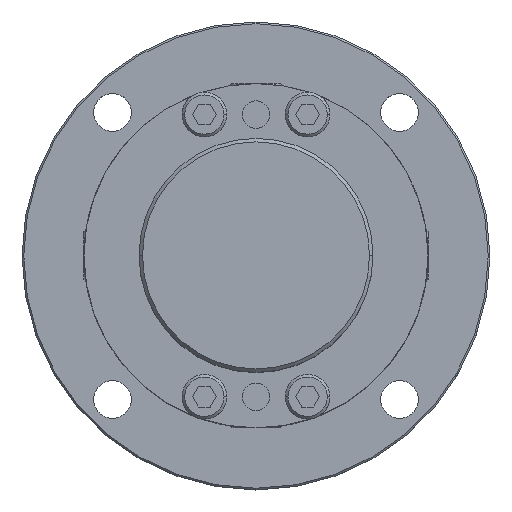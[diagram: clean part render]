
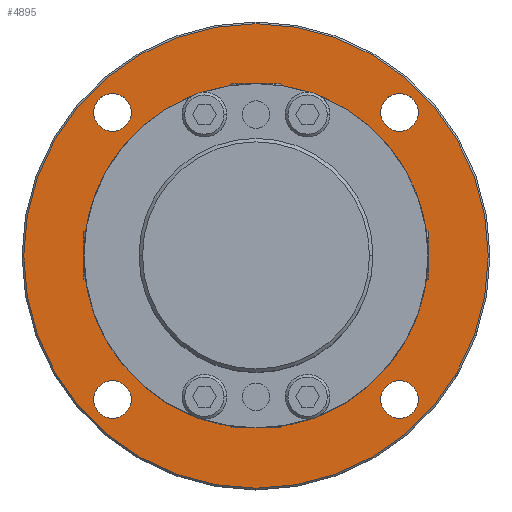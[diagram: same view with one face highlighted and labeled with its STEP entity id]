
A CAD part, top view. The second image highlights one B-rep face of the part: STEP entity #4895.
In plain terms, the highlighted planar face has unit normal (0, 0, 1).
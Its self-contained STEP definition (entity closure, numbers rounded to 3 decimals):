
#1240=CARTESIAN_POINT('',(0.,50.,-20.));
#1241=VERTEX_POINT('',#1240);
#1357=CARTESIAN_POINT('',(0.,-50.,-20.));
#1358=VERTEX_POINT('',#1357);
#1365=CARTESIAN_POINT('',(0.0,0.,-20.));
#1366=DIRECTION('',(0.0,0.0,-1.0));
#1367=DIRECTION('',(0.0,1.0,0.0));
#1368=AXIS2_PLACEMENT_3D('',#1365,#1366,#1367);
#1369=CIRCLE('',#1368,50.0);
#1370=EDGE_CURVE('',#1241,#1358,#1369,.T.);
#1557=CARTESIAN_POINT('',(-41.719,47.219,-20.));
#1558=VERTEX_POINT('',#1557);
#1567=CARTESIAN_POINT('',(-41.719,36.219,-20.));
#1568=VERTEX_POINT('',#1567);
#1569=CARTESIAN_POINT('',(-41.719,41.719,-20.));
#1570=DIRECTION('',(0.0,0.0,-1.0));
#1571=DIRECTION('',(0.0,1.0,0.0));
#1572=AXIS2_PLACEMENT_3D('',#1569,#1570,#1571);
#1573=CIRCLE('',#1572,5.5);
#1574=EDGE_CURVE('',#1568,#1558,#1573,.T.);
#1599=CARTESIAN_POINT('',(-41.719,-36.219,-20.));
#1600=VERTEX_POINT('',#1599);
#1609=CARTESIAN_POINT('',(-41.719,-47.219,-20.));
#1610=VERTEX_POINT('',#1609);
#1611=CARTESIAN_POINT('',(-41.719,-41.719,-20.));
#1612=DIRECTION('',(0.0,0.0,-1.0));
#1613=DIRECTION('',(0.0,1.0,0.0));
#1614=AXIS2_PLACEMENT_3D('',#1611,#1612,#1613);
#1615=CIRCLE('',#1614,5.5);
#1616=EDGE_CURVE('',#1610,#1600,#1615,.T.);
#1641=CARTESIAN_POINT('',(41.719,-36.219,-20.));
#1642=VERTEX_POINT('',#1641);
#1651=CARTESIAN_POINT('',(41.719,-47.219,-20.));
#1652=VERTEX_POINT('',#1651);
#1653=CARTESIAN_POINT('',(41.719,-41.719,-20.));
#1654=DIRECTION('',(0.0,0.0,-1.0));
#1655=DIRECTION('',(0.0,1.0,0.0));
#1656=AXIS2_PLACEMENT_3D('',#1653,#1654,#1655);
#1657=CIRCLE('',#1656,5.5);
#1658=EDGE_CURVE('',#1652,#1642,#1657,.T.);
#1683=CARTESIAN_POINT('',(41.719,47.219,-20.));
#1684=VERTEX_POINT('',#1683);
#1693=CARTESIAN_POINT('',(41.719,36.219,-20.));
#1694=VERTEX_POINT('',#1693);
#1695=CARTESIAN_POINT('',(41.719,41.719,-20.));
#1696=DIRECTION('',(0.0,0.0,-1.0));
#1697=DIRECTION('',(0.0,1.0,0.0));
#1698=AXIS2_PLACEMENT_3D('',#1695,#1696,#1697);
#1699=CIRCLE('',#1698,5.5);
#1700=EDGE_CURVE('',#1694,#1684,#1699,.T.);
#2305=CARTESIAN_POINT('',(0.,-67.5,-20.));
#2306=VERTEX_POINT('',#2305);
#2315=CARTESIAN_POINT('',(0.,67.5,-20.));
#2316=VERTEX_POINT('',#2315);
#2317=CARTESIAN_POINT('',(0.0,0.,-20.));
#2318=DIRECTION('',(0.0,0.0,-1.0));
#2319=DIRECTION('',(0.0,-1.0,0.0));
#2320=AXIS2_PLACEMENT_3D('',#2317,#2318,#2319);
#2321=CIRCLE('',#2320,67.5);
#2322=EDGE_CURVE('',#2306,#2316,#2321,.T.);
#4826=CARTESIAN_POINT('',(0.0,0.,-20.));
#4827=DIRECTION('',(0.0,0.0,-1.0));
#4828=DIRECTION('',(0.0,-1.0,0.0));
#4829=AXIS2_PLACEMENT_3D('',#4826,#4827,#4828);
#4830=CIRCLE('',#4829,67.5);
#4831=EDGE_CURVE('',#2316,#2306,#4830,.T.);
#4836=CARTESIAN_POINT('',(0.,6.182,-20.));
#4837=DIRECTION('',(0.0,0.0,1.0));
#4838=DIRECTION('',(0.0,1.0,0.0));
#4839=AXIS2_PLACEMENT_3D('',#4836,#4837,#4838);
#4840=PLANE('',#4839);
#4841=ORIENTED_EDGE('',*,*,#4831,.F.);
#4842=ORIENTED_EDGE('',*,*,#2322,.F.);
#4843=EDGE_LOOP('',(#4841,#4842));
#4844=FACE_OUTER_BOUND('',#4843,.T.);
#4845=CARTESIAN_POINT('',(0.0,0.,-20.));
#4846=DIRECTION('',(0.0,0.0,-1.0));
#4847=DIRECTION('',(0.0,1.0,0.0));
#4848=AXIS2_PLACEMENT_3D('',#4845,#4846,#4847);
#4849=CIRCLE('',#4848,50.0);
#4850=EDGE_CURVE('',#1358,#1241,#4849,.T.);
#4851=ORIENTED_EDGE('',*,*,#4850,.T.);
#4852=ORIENTED_EDGE('',*,*,#1370,.T.);
#4853=EDGE_LOOP('',(#4851,#4852));
#4854=FACE_BOUND('',#4853,.T.);
#4855=ORIENTED_EDGE('',*,*,#1574,.T.);
#4856=CARTESIAN_POINT('',(-41.719,41.719,-20.));
#4857=DIRECTION('',(0.0,0.0,-1.0));
#4858=DIRECTION('',(0.0,1.0,0.0));
#4859=AXIS2_PLACEMENT_3D('',#4856,#4857,#4858);
#4860=CIRCLE('',#4859,5.5);
#4861=EDGE_CURVE('',#1558,#1568,#4860,.T.);
#4862=ORIENTED_EDGE('',*,*,#4861,.T.);
#4863=EDGE_LOOP('',(#4855,#4862));
#4864=FACE_BOUND('',#4863,.T.);
#4865=ORIENTED_EDGE('',*,*,#1616,.T.);
#4866=CARTESIAN_POINT('',(-41.719,-41.719,-20.));
#4867=DIRECTION('',(0.0,0.0,-1.0));
#4868=DIRECTION('',(0.0,1.0,0.0));
#4869=AXIS2_PLACEMENT_3D('',#4866,#4867,#4868);
#4870=CIRCLE('',#4869,5.5);
#4871=EDGE_CURVE('',#1600,#1610,#4870,.T.);
#4872=ORIENTED_EDGE('',*,*,#4871,.T.);
#4873=EDGE_LOOP('',(#4865,#4872));
#4874=FACE_BOUND('',#4873,.T.);
#4875=ORIENTED_EDGE('',*,*,#1658,.T.);
#4876=CARTESIAN_POINT('',(41.719,-41.719,-20.));
#4877=DIRECTION('',(0.0,0.0,-1.0));
#4878=DIRECTION('',(0.0,1.0,0.0));
#4879=AXIS2_PLACEMENT_3D('',#4876,#4877,#4878);
#4880=CIRCLE('',#4879,5.5);
#4881=EDGE_CURVE('',#1642,#1652,#4880,.T.);
#4882=ORIENTED_EDGE('',*,*,#4881,.T.);
#4883=EDGE_LOOP('',(#4875,#4882));
#4884=FACE_BOUND('',#4883,.T.);
#4885=ORIENTED_EDGE('',*,*,#1700,.T.);
#4886=CARTESIAN_POINT('',(41.719,41.719,-20.));
#4887=DIRECTION('',(0.0,0.0,-1.0));
#4888=DIRECTION('',(0.0,1.0,0.0));
#4889=AXIS2_PLACEMENT_3D('',#4886,#4887,#4888);
#4890=CIRCLE('',#4889,5.5);
#4891=EDGE_CURVE('',#1684,#1694,#4890,.T.);
#4892=ORIENTED_EDGE('',*,*,#4891,.T.);
#4893=EDGE_LOOP('',(#4885,#4892));
#4894=FACE_BOUND('',#4893,.T.);
#4895=ADVANCED_FACE('',(#4844,#4854,#4864,#4874,#4884,#4894),#4840,.T.);
